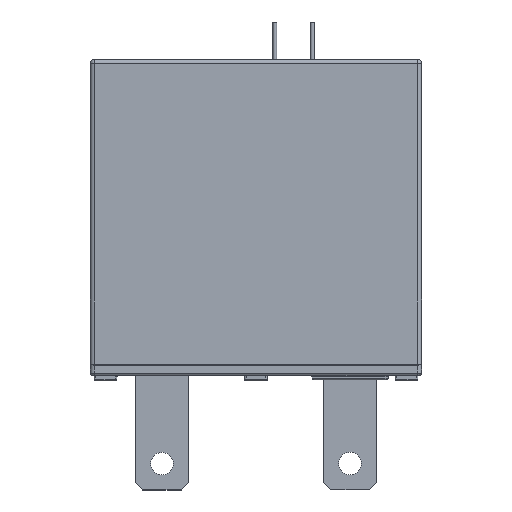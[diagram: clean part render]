
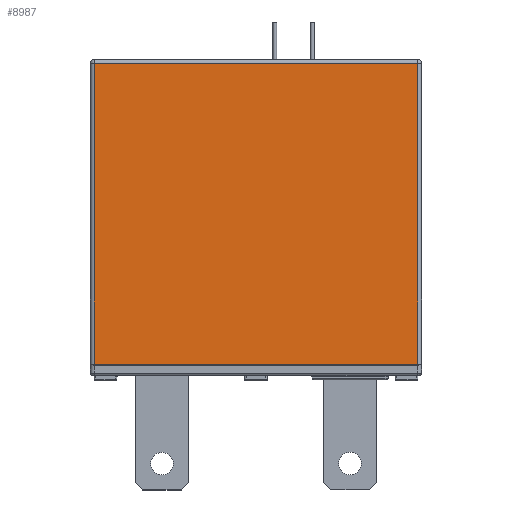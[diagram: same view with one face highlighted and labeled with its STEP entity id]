
A CAD part, top view. The second image highlights one B-rep face of the part: STEP entity #8987.
In plain terms, the highlighted planar face has unit normal (0, 0, 1).
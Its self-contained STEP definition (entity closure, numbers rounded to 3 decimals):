
#123=DIRECTION('',(1.,0.,0.));
#124=VECTOR('',#123,43.);
#125=CARTESIAN_POINT('',(-21.5,1.5,7.3));
#126=LINE('',#125,#124);
#4149=DIRECTION('',(0.,-1.,0.));
#4150=VECTOR('',#4149,40.);
#4151=CARTESIAN_POINT('',(21.5,41.5,7.3));
#4152=LINE('',#4151,#4150);
#4156=DIRECTION('',(0.,-1.,0.));
#4157=VECTOR('',#4156,40.);
#4158=CARTESIAN_POINT('',(-21.5,41.5,7.3));
#4159=LINE('',#4158,#4157);
#4163=DIRECTION('',(1.,0.,0.));
#4164=VECTOR('',#4163,43.);
#4165=CARTESIAN_POINT('',(-21.5,41.5,7.3));
#4166=LINE('',#4165,#4164);
#5022=CARTESIAN_POINT('',(21.5,1.5,7.3));
#5024=VERTEX_POINT('',#5022);
#5025=CARTESIAN_POINT('',(21.5,41.5,7.3));
#5026=VERTEX_POINT('',#5025);
#5027=CARTESIAN_POINT('',(-21.5,41.5,7.3));
#5028=VERTEX_POINT('',#5027);
#5031=CARTESIAN_POINT('',(-21.5,1.5,7.3));
#5033=VERTEX_POINT('',#5031);
#8974=CARTESIAN_POINT('',(-22.,1.5,7.3));
#8975=DIRECTION('',(0.,0.,1.));
#8976=DIRECTION('',(1.,0.,0.));
#8977=AXIS2_PLACEMENT_3D('',#8974,#8975,#8976);
#8978=PLANE('',#8977);
#8979=ORIENTED_EDGE('',*,*,#8966,.T.);
#8980=ORIENTED_EDGE('',*,*,#5191,.F.);
#8982=ORIENTED_EDGE('',*,*,#8981,.F.);
#8984=ORIENTED_EDGE('',*,*,#8983,.T.);
#8985=EDGE_LOOP('',(#8979,#8980,#8982,#8984));
#8986=FACE_OUTER_BOUND('',#8985,.F.);
#8987=ADVANCED_FACE('',(#8986),#8978,.T.);
#5191=EDGE_CURVE('',#5033,#5024,#126,.T.);
#8966=EDGE_CURVE('',#5026,#5024,#4152,.T.);
#8981=EDGE_CURVE('',#5028,#5033,#4159,.T.);
#8983=EDGE_CURVE('',#5028,#5026,#4166,.T.);
